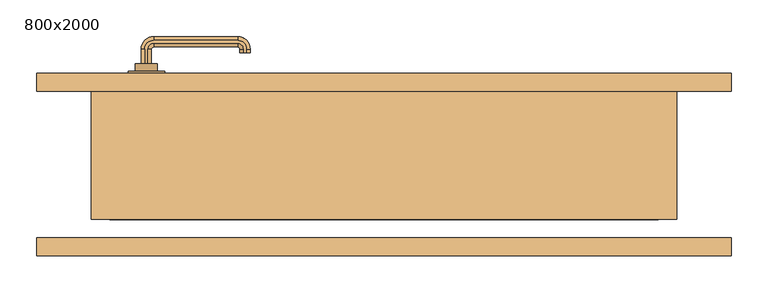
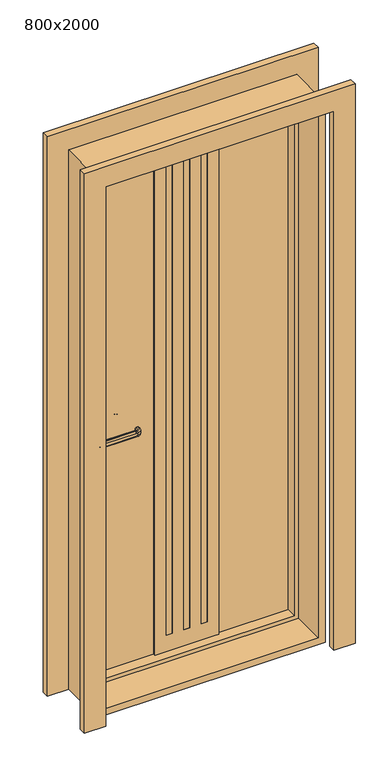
"""IFC4 building model written with IfcOpenShell, lengths in millimetres: door geometry, 片開き3 : 800x2000."""

from ifc_helpers import new_model, si_unit, point, frame, frame_2d, origin, place, context, project, spatial, polyline, circle_curve, ellipse_curve, trimmed, segment, composite_curve, outline, extrude, faceted_brep, source, transform, mapped, element, save
from ifc_brep_helpers import plane_surface, cylinder_surface, revolved_surface, advanced_brep


def door_800x2000_a7d1584b(model_context):
    return source(origin(), model_context, "Body", "SolidModel", [
        extrude(outline(composite_curve([segment(trimmed(circle_curve(frame_2d((980.1793562, -325.0)), 15.0), [point((980.1793562, -310.0))], [point((980.1793562, -340.0))], False, "CARTESIAN"), True, "CONTINUOUS"), segment(trimmed(circle_curve(frame_2d((980.1793562, -325.0)), 15.0), [point((980.1793562, -340.0))], [point((980.1793562, -310.0))], False, "CARTESIAN"), True, "CONTINUOUS")], self_intersect=False)), frame((0.0, 128.0, 0.0), z_axis=(0.0, 1.0, 0.0), x_axis=(0.0, 0.0, 1.0)), (0.0, 0.0, 1.0), 10.0),
        extrude(outline(composite_curve([segment(trimmed(circle_curve(frame_2d((980.1793562, -325.0)), 15.0), [point((980.1793562, -340.0))], [point((980.1793562, -310.0))], False, "CARTESIAN"), True, "CONTINUOUS"), segment(trimmed(circle_curve(frame_2d((980.1793562, -325.0)), 15.0), [point((980.1793562, -310.0))], [point((980.1793562, -340.0))], False, "CARTESIAN"), True, "CONTINUOUS")], self_intersect=False)), frame((0.0, 63.0, 0.0), z_axis=(0.0, 1.0, 0.0), x_axis=(0.0, 0.0, 1.0)), (0.0, 0.0, 1.0), 10.0),
        advanced_brep(
        [(-327.0, 128.0, 930.0), (-332.0, 128.0, 925.0), (-332.0, 128.0, 915.0477623), (-327.0, 128.0, 910.0477623), (-323.0, 128.0, 910.0477623), (-318.0, 128.0, 915.0477623), (-318.0, 128.0, 925.0), (-323.0, 128.0, 930.0), (-327.0, 158.0, 930.0), (-332.0, 158.0, 925.0), (-332.0, 158.0, 915.0477623), (-327.0, 158.0, 910.0477623), (-315.0, 170.0, 910.0477623), (-200.0, 170.0, 910.0477623), (-188.0, 158.0, 910.0477623), (-188.0, 153.0, 910.0477623), (-192.0, 153.0, 910.0477623), (-192.0, 158.0, 910.0477623), (-200.0, 166.0, 910.0477623), (-315.0, 166.0, 910.0477623), (-323.0, 158.0, 910.0477623), (-318.0, 158.0, 915.0477623), (-318.0, 158.0, 925.0), (-323.0, 158.0, 930.0), (-315.0, 166.0, 930.0), (-200.0, 166.0, 930.0), (-192.0, 158.0, 930.0), (-192.0, 153.0, 930.0), (-188.0, 153.0, 930.0), (-188.0, 158.0, 930.0), (-200.0, 170.0, 930.0), (-315.0, 170.0, 930.0), (-315.0, 175.0, 925.0), (-315.0, 175.0, 915.0477623), (-315.0, 161.0, 915.0477623), (-315.0, 161.0, 925.0), (-200.0, 175.0, 925.0), (-200.0, 175.0, 915.0477623), (-200.0, 161.0, 915.0477623), (-200.0, 161.0, 925.0), (-183.0, 158.0, 925.0), (-183.0, 158.0, 915.0477623), (-197.0, 158.0, 915.0477623), (-197.0, 158.0, 925.0), (-197.0, 153.0, 925.0), (-197.0, 153.0, 915.0477623), (-183.0, 153.0, 915.0477623), (-183.0, 153.0, 925.0)],
        [
            (0, 1, circle_curve(frame((-327.0, 128.0, 925.0), z_axis=(0.0, -1.0, 0.0), x_axis=(-1.0, 0.0, 0.0)), 5.0)),
            (1, 2),
            (2, 3, circle_curve(frame((-327.0, 128.0, 915.0477623), z_axis=(0.0, -1.0, 0.0), x_axis=(-1.0, 0.0, 0.0)), 5.0)),
            (3, 4),
            (4, 5, circle_curve(frame((-323.0, 128.0, 915.0477623), z_axis=(0.0, -1.0, 0.0), x_axis=(-1.0, 0.0, 0.0)), 5.0)),
            (5, 6),
            (6, 7, circle_curve(frame((-323.0, 128.0, 925.0), z_axis=(0.0, -1.0, 0.0), x_axis=(-1.0, 0.0, 0.0)), 5.0)),
            (7, 0),
            (0, 8),
            (8, 9, circle_curve(frame((-327.0, 158.0, 925.0), z_axis=(0.0, -1.0, 0.0), x_axis=(-1.0, 0.0, 0.0)), 5.0)),
            (9, 1),
            (9, 10),
            (10, 2),
            (10, 11, circle_curve(frame((-327.0, 158.0, 915.0477623), z_axis=(0.0, -1.0, 0.0), x_axis=(-1.0, 0.0, 0.0)), 5.0)),
            (11, 3),
            (11, 12, circle_curve(frame((-315.0, 158.0, 910.0477623), z_axis=(0.0, 0.0, -1.0), x_axis=(-1.0, 0.0, 0.0)), 12.0)),
            (12, 13),
            (13, 14, circle_curve(frame((-200.0, 158.0, 910.0477623), z_axis=(0.0, 0.0, -1.0), x_axis=(0.0, 1.0, 0.0)), 12.0)),
            (14, 15),
            (15, 16),
            (16, 17),
            (17, 18, circle_curve(frame((-200.0, 158.0, 910.0477623), z_axis=(0.0, 0.0, 1.0), x_axis=(0.0, 1.0, 0.0)), 8.0)),
            (18, 19),
            (19, 20, circle_curve(frame((-315.0, 158.0, 910.0477623), z_axis=(0.0, 0.0, 1.0), x_axis=(-1.0, 0.0, 0.0)), 8.0)),
            (20, 4),
            (20, 21, circle_curve(frame((-323.0, 158.0, 915.0477623), z_axis=(0.0, -1.0, 0.0), x_axis=(-1.0, 0.0, 0.0)), 5.0)),
            (21, 5),
            (21, 22),
            (22, 6),
            (22, 23, circle_curve(frame((-323.0, 158.0, 925.0), z_axis=(0.0, -1.0, 0.0), x_axis=(-1.0, 0.0, 0.0)), 5.0)),
            (23, 7),
            (23, 24, circle_curve(frame((-315.0, 158.0, 930.0), z_axis=(0.0, 0.0, -1.0), x_axis=(-1.0, 0.0, 0.0)), 8.0)),
            (24, 25),
            (25, 26, circle_curve(frame((-200.0, 158.0, 930.0), z_axis=(0.0, 0.0, -1.0), x_axis=(0.0, 1.0, 0.0)), 8.0)),
            (26, 27),
            (27, 28),
            (28, 29),
            (29, 30, circle_curve(frame((-200.0, 158.0, 930.0), z_axis=(0.0, 0.0, 1.0), x_axis=(0.0, 1.0, 0.0)), 12.0)),
            (30, 31),
            (31, 8, circle_curve(frame((-315.0, 158.0, 930.0), z_axis=(0.0, 0.0, 1.0), x_axis=(-1.0, 0.0, 0.0)), 12.0)),
            (32, 9, circle_curve(frame((-315.0, 158.0, 925.0), z_axis=(0.0, 0.0, 1.0), x_axis=(-1.0, 0.0, 0.0)), 17.0)),
            (31, 32, circle_curve(frame((-315.0, 170.0, 925.0), z_axis=(-1.0, 0.0, 0.0), x_axis=(0.0, 1.0, 0.0)), 5.0)),
            (33, 10, circle_curve(frame((-315.0, 158.0, 915.0477623), z_axis=(0.0, 0.0, 1.0), x_axis=(-1.0, 0.0, 0.0)), 17.0)),
            (32, 33),
            (33, 12, circle_curve(frame((-315.0, 170.0, 915.0477623), z_axis=(-1.0, 0.0, 0.0), x_axis=(0.0, 1.0, 0.0)), 5.0)),
            (34, 21, circle_curve(frame((-315.0, 158.0, 915.0477623), z_axis=(0.0, 0.0, 1.0), x_axis=(-1.0, 0.0, 0.0)), 3.0)),
            (19, 34, circle_curve(frame((-315.0, 166.0, 915.0477623), z_axis=(-1.0, 0.0, 0.0), x_axis=(0.0, 1.0, 0.0)), 5.0)),
            (35, 22, circle_curve(frame((-315.0, 158.0, 925.0), z_axis=(0.0, 0.0, 1.0), x_axis=(-1.0, 0.0, 0.0)), 3.0)),
            (34, 35),
            (35, 24, circle_curve(frame((-315.0, 166.0, 925.0), z_axis=(-1.0, 0.0, 0.0), x_axis=(0.0, 1.0, 0.0)), 5.0)),
            (30, 36, circle_curve(frame((-200.0, 170.0, 925.0), z_axis=(-1.0, 0.0, 0.0), x_axis=(0.0, 1.0, 0.0)), 5.0)),
            (36, 32),
            (36, 37),
            (37, 33),
            (37, 13, circle_curve(frame((-200.0, 170.0, 915.0477623), z_axis=(-1.0, 0.0, 0.0), x_axis=(0.0, 1.0, 0.0)), 5.0)),
            (18, 38, circle_curve(frame((-200.0, 166.0, 915.0477623), z_axis=(-1.0, 0.0, 0.0), x_axis=(0.0, 1.0, 0.0)), 5.0)),
            (38, 34),
            (38, 39),
            (39, 35),
            (39, 25, circle_curve(frame((-200.0, 166.0, 925.0), z_axis=(-1.0, 0.0, 0.0), x_axis=(0.0, 1.0, 0.0)), 5.0)),
            (40, 36, circle_curve(frame((-200.0, 158.0, 925.0), z_axis=(0.0, 0.0, 1.0), x_axis=(0.0, 1.0, 0.0)), 17.0)),
            (29, 40, circle_curve(frame((-188.0, 158.0, 925.0), z_axis=(0.0, 1.0, 0.0), x_axis=(1.0, 0.0, 0.0)), 5.0)),
            (41, 37, circle_curve(frame((-200.0, 158.0, 915.0477623), z_axis=(0.0, 0.0, 1.0), x_axis=(0.0, 1.0, 0.0)), 17.0)),
            (40, 41),
            (41, 14, circle_curve(frame((-188.0, 158.0, 915.0477623), z_axis=(0.0, 1.0, 0.0), x_axis=(1.0, 0.0, 0.0)), 5.0)),
            (42, 38, circle_curve(frame((-200.0, 158.0, 915.0477623), z_axis=(0.0, 0.0, 1.0), x_axis=(0.0, 1.0, 0.0)), 3.0)),
            (17, 42, circle_curve(frame((-192.0, 158.0, 915.0477623), z_axis=(0.0, 1.0, 0.0), x_axis=(1.0, 0.0, 0.0)), 5.0)),
            (43, 39, circle_curve(frame((-200.0, 158.0, 925.0), z_axis=(0.0, 0.0, 1.0), x_axis=(0.0, 1.0, 0.0)), 3.0)),
            (42, 43),
            (43, 26, circle_curve(frame((-192.0, 158.0, 925.0), z_axis=(0.0, 1.0, 0.0), x_axis=(1.0, 0.0, 0.0)), 5.0)),
            (27, 44, circle_curve(frame((-192.0, 153.0, 925.0), z_axis=(0.0, -1.0, 0.0), x_axis=(1.0, 0.0, 0.0)), 5.0)),
            (44, 45),
            (45, 16, circle_curve(frame((-192.0, 153.0, 915.0477623), z_axis=(0.0, -1.0, 0.0), x_axis=(1.0, 0.0, 0.0)), 5.0)),
            (15, 46, circle_curve(frame((-188.0, 153.0, 915.0477623), z_axis=(0.0, -1.0, 0.0), x_axis=(1.0, 0.0, 0.0)), 5.0)),
            (46, 47),
            (47, 28, circle_curve(frame((-188.0, 153.0, 925.0), z_axis=(0.0, -1.0, 0.0), x_axis=(1.0, 0.0, 0.0)), 5.0)),
            (47, 40),
            (46, 41),
            (45, 42),
            (44, 43),
        ],
        [
            plane_surface(frame((-335.198039, 128.0, 920.0), z_axis=(0.0, -1.0, 0.0), x_axis=(0.0, 0.0, 1.0))),
            cylinder_surface(frame((-327.0, 128.0, 925.0), z_axis=(0.0, -1.0, 0.0), x_axis=(-1.0, 0.0, 0.0)), 5.0),
            plane_surface(frame((-332.0, 128.0, 925.0), z_axis=(-1.0, 0.0, 0.0), x_axis=(0.0, 1.0, 0.0))),
            cylinder_surface(frame((-327.0, 128.0, 915.0477623), z_axis=(0.0, -1.0, 0.0), x_axis=(-1.0, 0.0, 0.0)), 5.0),
            plane_surface(frame((-327.0, 128.0, 910.0477623), z_axis=(0.0, 0.0, -1.0), x_axis=(0.0, 1.0, 0.0))),
            cylinder_surface(frame((-323.0, 128.0, 915.0477623), z_axis=(0.0, -1.0, 0.0), x_axis=(-1.0, 0.0, 0.0)), 5.0),
            plane_surface(frame((-318.0, 128.0, 915.0477623), z_axis=(1.0, 0.0, 0.0), x_axis=(0.0, 1.0, 0.0))),
            cylinder_surface(frame((-323.0, 128.0, 925.0), z_axis=(0.0, -1.0, 0.0), x_axis=(-1.0, 0.0, 0.0)), 5.0),
            plane_surface(frame((-323.0, 128.0, 930.0), z_axis=(0.0, 0.0, 1.0), x_axis=(0.0, 1.0, 0.0))),
            revolved_surface(trimmed(ellipse_curve(frame((-327.0, 158.0, 925.0), z_axis=(0.0, -1.0, 0.0), x_axis=(-1.0, 0.0, 0.0)), 5.0, 5.0), [point((-327.0, 158.0, 930.0))], [point((-332.0, 158.0, 925.0))], True, "CARTESIAN"), (-315.0, 158.0, 920.0), (0.0, 0.0, -1.0)),
            cylinder_surface(frame((-315.0, 158.0, 920.0), z_axis=(0.0, 0.0, -1.0), x_axis=(-1.0, 0.0, 0.0)), 17.0),
            revolved_surface(trimmed(ellipse_curve(frame((-327.0, 158.0, 915.0477623), z_axis=(0.0, -1.0, 0.0), x_axis=(-1.0, 0.0, 0.0)), 5.0, 5.0), [point((-332.0, 158.0, 915.0477623))], [point((-327.0, 158.0, 910.0477623))], True, "CARTESIAN"), (-315.0, 158.0, 920.0), (0.0, 0.0, -1.0)),
            revolved_surface(trimmed(ellipse_curve(frame((-323.0, 158.0, 915.0477623), z_axis=(0.0, -1.0, 0.0), x_axis=(-1.0, 0.0, 0.0)), 5.0, 5.0), [point((-323.0, 158.0, 910.0477623))], [point((-318.0, 158.0, 915.0477623))], True, "CARTESIAN"), (-315.0, 158.0, 920.0), (0.0, 0.0, -1.0)),
            revolved_surface(polyline([(-318.0, 158.0, 915.0477623), (-318.0, 158.0, 925.0)]), (-315.0, 158.0, 920.0), (0.0, 0.0, -1.0)),
            revolved_surface(trimmed(ellipse_curve(frame((-323.0, 158.0, 925.0), z_axis=(0.0, -1.0, 0.0), x_axis=(-1.0, 0.0, 0.0)), 5.0, 5.0), [point((-318.0, 158.0, 925.0))], [point((-323.0, 158.0, 930.0))], True, "CARTESIAN"), (-315.0, 158.0, 920.0), (0.0, 0.0, -1.0)),
            cylinder_surface(frame((-315.0, 170.0, 925.0), z_axis=(-1.0, 0.0, 0.0), x_axis=(0.0, 1.0, 0.0)), 5.0),
            plane_surface(frame((-315.0, 175.0, 925.0), z_axis=(0.0, 1.0, 0.0), x_axis=(1.0, 0.0, 0.0))),
            cylinder_surface(frame((-315.0, 170.0, 915.0477623), z_axis=(-1.0, 0.0, 0.0), x_axis=(0.0, 1.0, 0.0)), 5.0),
            cylinder_surface(frame((-315.0, 166.0, 915.0477623), z_axis=(-1.0, 0.0, 0.0), x_axis=(0.0, 1.0, 0.0)), 5.0),
            plane_surface(frame((-315.0, 161.0, 915.0477623), z_axis=(0.0, -1.0, 0.0), x_axis=(1.0, 0.0, 0.0))),
            cylinder_surface(frame((-315.0, 166.0, 925.0), z_axis=(-1.0, 0.0, 0.0), x_axis=(0.0, 1.0, 0.0)), 5.0),
            revolved_surface(trimmed(ellipse_curve(frame((-200.0, 170.0, 925.0), z_axis=(-1.0, 0.0, 0.0), x_axis=(0.0, 1.0, 0.0)), 5.0, 5.0), [point((-200.0, 170.0, 930.0))], [point((-200.0, 175.0, 925.0))], True, "CARTESIAN"), (-200.0, 158.0, 920.0), (0.0, 0.0, -1.0)),
            cylinder_surface(frame((-200.0, 158.0, 920.0), z_axis=(0.0, 0.0, -1.0), x_axis=(0.0, 1.0, 0.0)), 17.0),
            revolved_surface(trimmed(ellipse_curve(frame((-200.0, 170.0, 915.0477623), z_axis=(-1.0, 0.0, 0.0), x_axis=(0.0, 1.0, 0.0)), 5.0, 5.0), [point((-200.0, 175.0, 915.0477623))], [point((-200.0, 170.0, 910.0477623))], True, "CARTESIAN"), (-200.0, 158.0, 920.0), (0.0, 0.0, -1.0)),
            revolved_surface(trimmed(ellipse_curve(frame((-200.0, 166.0, 915.0477623), z_axis=(-1.0, 0.0, 0.0), x_axis=(0.0, 1.0, 0.0)), 5.0, 5.0), [point((-200.0, 166.0, 910.0477623))], [point((-200.0, 161.0, 915.0477623))], True, "CARTESIAN"), (-200.0, 158.0, 920.0), (0.0, 0.0, -1.0)),
            revolved_surface(polyline([(-200.0, 161.0, 915.0477623), (-200.0, 161.0, 925.0)]), (-200.0, 158.0, 920.0), (0.0, 0.0, -1.0)),
            revolved_surface(trimmed(ellipse_curve(frame((-200.0, 166.0, 925.0), z_axis=(-1.0, 0.0, 0.0), x_axis=(0.0, 1.0, 0.0)), 5.0, 5.0), [point((-200.0, 161.0, 925.0))], [point((-200.0, 166.0, 930.0))], True, "CARTESIAN"), (-200.0, 158.0, 920.0), (0.0, 0.0, -1.0)),
            plane_surface(frame((-200.198039, 153.0, 920.0), z_axis=(0.0, -1.0, 0.0), x_axis=(0.0, 0.0, -1.0))),
            cylinder_surface(frame((-188.0, 158.0, 925.0), z_axis=(0.0, 1.0, 0.0), x_axis=(1.0, 0.0, 0.0)), 5.0),
            plane_surface(frame((-183.0, 158.0, 925.0), z_axis=(1.0, 0.0, 0.0), x_axis=(0.0, -1.0, 0.0))),
            cylinder_surface(frame((-188.0, 158.0, 915.0477623), z_axis=(0.0, 1.0, 0.0), x_axis=(1.0, 0.0, 0.0)), 5.0),
            cylinder_surface(frame((-192.0, 158.0, 915.0477623), z_axis=(0.0, 1.0, 0.0), x_axis=(1.0, 0.0, 0.0)), 5.0),
            plane_surface(frame((-197.0, 158.0, 915.0477623), z_axis=(-1.0, 0.0, 0.0), x_axis=(0.0, -1.0, 0.0))),
            cylinder_surface(frame((-192.0, 158.0, 925.0), z_axis=(0.0, 1.0, 0.0), x_axis=(1.0, 0.0, 0.0)), 5.0),
        ],
        [
            (0, [[1, 2, 3, 4, 5, 6, 7, 8]]),
            (1, [[-1, 9, 10, 11]]),
            (2, [[-2, -11, 12, 13]]),
            (3, [[-3, -13, 14, 15]]),
            (4, [[-4, -15, 16, 17, 18, 19, 20, 21, 22, 23, 24, 25]]),
            (5, [[-5, -25, 26, 27]]),
            (6, [[-6, -27, 28, 29]]),
            (7, [[-7, -29, 30, 31]]),
            (8, [[-8, -31, 32, 33, 34, 35, 36, 37, 38, 39, 40, -9]]),
            (9, [[41, -10, -40, 42]]),
            (10, [[43, -12, -41, 44]]),
            (11, [[-16, -14, -43, 45]]),
            (12, [[46, -26, -24, 47]]),
            (13, [[48, -28, -46, 49]]),
            (14, [[-32, -30, -48, 50]]),
            (15, [[-42, -39, 51, 52]]),
            (16, [[-44, -52, 53, 54]]),
            (17, [[-45, -54, 55, -17]]),
            (18, [[-47, -23, 56, 57]]),
            (19, [[-49, -57, 58, 59]]),
            (20, [[-50, -59, 60, -33]]),
            (21, [[61, -51, -38, 62]]),
            (22, [[63, -53, -61, 64]]),
            (23, [[-18, -55, -63, 65]]),
            (24, [[66, -56, -22, 67]]),
            (25, [[68, -58, -66, 69]]),
            (26, [[-34, -60, -68, 70]]),
            (27, [[-36, 71, 72, 73, -20, 74, 75, 76]]),
            (28, [[-62, -37, -76, 77]]),
            (29, [[-64, -77, -75, 78]]),
            (30, [[-65, -78, -74, -19]]),
            (31, [[-67, -21, -73, 79]]),
            (32, [[-69, -79, -72, 80]]),
            (33, [[-70, -80, -71, -35]]),
        ],
    ),
        advanced_brep(
        [(-323.0, 73.0, 910.0), (-327.0, 73.0, 910.0), (-332.0, 73.0, 915.0), (-332.0, 73.0, 925.0), (-327.0, 73.0, 930.0), (-323.0, 73.0, 930.0), (-318.0, 73.0, 925.0), (-318.0, 73.0, 915.0), (-323.0, 43.0, 910.0), (-315.0, 35.0, 910.0), (-200.0, 35.0, 910.0), (-192.0, 43.0, 910.0), (-192.0, 48.0, 910.0), (-188.0, 48.0, 910.0), (-188.0, 43.0, 910.0), (-200.0, 31.0, 910.0), (-315.0, 31.0, 910.0), (-327.0, 43.0, 910.0), (-332.0, 43.0, 915.0), (-332.0, 43.0, 925.0), (-327.0, 43.0, 930.0), (-315.0, 31.0, 930.0), (-200.0, 31.0, 930.0), (-188.0, 43.0, 930.0), (-188.0, 48.0, 930.0), (-192.0, 48.0, 930.0), (-192.0, 43.0, 930.0), (-200.0, 35.0, 930.0), (-315.0, 35.0, 930.0), (-323.0, 43.0, 930.0), (-318.0, 43.0, 925.0), (-318.0, 43.0, 915.0), (-315.0, 26.0, 915.0), (-315.0, 26.0, 925.0), (-315.0, 40.0, 925.0), (-315.0, 40.0, 915.0), (-200.0, 26.0, 915.0), (-200.0, 26.0, 925.0), (-200.0, 40.0, 925.0), (-200.0, 40.0, 915.0), (-183.0, 43.0, 915.0), (-183.0, 43.0, 925.0), (-197.0, 43.0, 925.0), (-197.0, 43.0, 915.0), (-197.0, 48.0, 915.0), (-197.0, 48.0, 925.0), (-183.0, 48.0, 925.0), (-183.0, 48.0, 915.0)],
        [
            (0, 1),
            (1, 2, circle_curve(frame((-327.0, 73.0, 915.0), z_axis=(0.0, 1.0, 0.0), x_axis=(1.0, 0.0, 0.0)), 5.0)),
            (2, 3),
            (3, 4, circle_curve(frame((-327.0, 73.0, 925.0), z_axis=(0.0, 1.0, 0.0), x_axis=(1.0, 0.0, 0.0)), 5.0)),
            (4, 5),
            (5, 6, circle_curve(frame((-323.0, 73.0, 925.0), z_axis=(0.0, 1.0, 0.0), x_axis=(1.0, 0.0, 0.0)), 5.0)),
            (6, 7),
            (7, 0, circle_curve(frame((-323.0, 73.0, 915.0), z_axis=(0.0, 1.0, 0.0), x_axis=(1.0, 0.0, 0.0)), 5.0)),
            (0, 8),
            (8, 9, circle_curve(frame((-315.0, 43.0, 910.0), z_axis=(0.0, 0.0, 1.0), x_axis=(-1.0, 0.0, 0.0)), 8.0)),
            (9, 10),
            (10, 11, circle_curve(frame((-200.0, 43.0, 910.0), z_axis=(0.0, 0.0, 1.0), x_axis=(0.0, -1.0, 0.0)), 8.0)),
            (11, 12),
            (12, 13),
            (13, 14),
            (14, 15, circle_curve(frame((-200.0, 43.0, 910.0), z_axis=(0.0, 0.0, -1.0), x_axis=(0.0, -1.0, 0.0)), 12.0)),
            (15, 16),
            (16, 17, circle_curve(frame((-315.0, 43.0, 910.0), z_axis=(0.0, 0.0, -1.0), x_axis=(-1.0, 0.0, 0.0)), 12.0)),
            (17, 1),
            (17, 18, circle_curve(frame((-327.0, 43.0, 915.0), z_axis=(0.0, 1.0, 0.0), x_axis=(1.0, 0.0, 0.0)), 5.0)),
            (18, 2),
            (18, 19),
            (19, 3),
            (19, 20, circle_curve(frame((-327.0, 43.0, 925.0), z_axis=(0.0, 1.0, 0.0), x_axis=(1.0, 0.0, 0.0)), 5.0)),
            (20, 4),
            (20, 21, circle_curve(frame((-315.0, 43.0, 930.0), z_axis=(0.0, 0.0, 1.0), x_axis=(-1.0, 0.0, 0.0)), 12.0)),
            (21, 22),
            (22, 23, circle_curve(frame((-200.0, 43.0, 930.0), z_axis=(0.0, 0.0, 1.0), x_axis=(0.0, -1.0, 0.0)), 12.0)),
            (23, 24),
            (24, 25),
            (25, 26),
            (26, 27, circle_curve(frame((-200.0, 43.0, 930.0), z_axis=(0.0, 0.0, -1.0), x_axis=(0.0, -1.0, 0.0)), 8.0)),
            (27, 28),
            (28, 29, circle_curve(frame((-315.0, 43.0, 930.0), z_axis=(0.0, 0.0, -1.0), x_axis=(-1.0, 0.0, 0.0)), 8.0)),
            (29, 5),
            (29, 30, circle_curve(frame((-323.0, 43.0, 925.0), z_axis=(0.0, 1.0, 0.0), x_axis=(1.0, 0.0, 0.0)), 5.0)),
            (30, 6),
            (30, 31),
            (31, 7),
            (31, 8, circle_curve(frame((-323.0, 43.0, 915.0), z_axis=(0.0, 1.0, 0.0), x_axis=(1.0, 0.0, 0.0)), 5.0)),
            (32, 18, circle_curve(frame((-315.0, 43.0, 915.0), z_axis=(0.0, 0.0, -1.0), x_axis=(-1.0, 0.0, 0.0)), 17.0)),
            (16, 32, circle_curve(frame((-315.0, 31.0, 915.0), z_axis=(-1.0, 0.0, 0.0), x_axis=(0.0, 1.0, 0.0)), 5.0)),
            (33, 19, circle_curve(frame((-315.0, 43.0, 925.0), z_axis=(0.0, 0.0, -1.0), x_axis=(-1.0, 0.0, 0.0)), 17.0)),
            (32, 33),
            (33, 21, circle_curve(frame((-315.0, 31.0, 925.0), z_axis=(-1.0, 0.0, 0.0), x_axis=(0.0, 1.0, 0.0)), 5.0)),
            (34, 30, circle_curve(frame((-315.0, 43.0, 925.0), z_axis=(0.0, 0.0, -1.0), x_axis=(-1.0, 0.0, 0.0)), 3.0)),
            (28, 34, circle_curve(frame((-315.0, 35.0, 925.0), z_axis=(-1.0, 0.0, 0.0), x_axis=(0.0, 1.0, 0.0)), 5.0)),
            (35, 31, circle_curve(frame((-315.0, 43.0, 915.0), z_axis=(0.0, 0.0, -1.0), x_axis=(-1.0, 0.0, 0.0)), 3.0)),
            (34, 35),
            (35, 9, circle_curve(frame((-315.0, 35.0, 915.0), z_axis=(-1.0, 0.0, 0.0), x_axis=(0.0, 1.0, 0.0)), 5.0)),
            (15, 36, circle_curve(frame((-200.0, 31.0, 915.0), z_axis=(-1.0, 0.0, 0.0), x_axis=(0.0, 1.0, 0.0)), 5.0)),
            (36, 32),
            (36, 37),
            (37, 33),
            (37, 22, circle_curve(frame((-200.0, 31.0, 925.0), z_axis=(-1.0, 0.0, 0.0), x_axis=(0.0, 1.0, 0.0)), 5.0)),
            (27, 38, circle_curve(frame((-200.0, 35.0, 925.0), z_axis=(-1.0, 0.0, 0.0), x_axis=(0.0, 1.0, 0.0)), 5.0)),
            (38, 34),
            (38, 39),
            (39, 35),
            (39, 10, circle_curve(frame((-200.0, 35.0, 915.0), z_axis=(-1.0, 0.0, 0.0), x_axis=(0.0, 1.0, 0.0)), 5.0)),
            (40, 36, circle_curve(frame((-200.0, 43.0, 915.0), z_axis=(0.0, 0.0, -1.0), x_axis=(0.0, -1.0, 0.0)), 17.0)),
            (14, 40, circle_curve(frame((-188.0, 43.0, 915.0), z_axis=(0.0, -1.0, 0.0), x_axis=(-1.0, 0.0, 0.0)), 5.0)),
            (41, 37, circle_curve(frame((-200.0, 43.0, 925.0), z_axis=(0.0, 0.0, -1.0), x_axis=(0.0, -1.0, 0.0)), 17.0)),
            (40, 41),
            (41, 23, circle_curve(frame((-188.0, 43.0, 925.0), z_axis=(0.0, -1.0, 0.0), x_axis=(-1.0, 0.0, 0.0)), 5.0)),
            (42, 38, circle_curve(frame((-200.0, 43.0, 925.0), z_axis=(0.0, 0.0, -1.0), x_axis=(0.0, -1.0, 0.0)), 3.0)),
            (26, 42, circle_curve(frame((-192.0, 43.0, 925.0), z_axis=(0.0, -1.0, 0.0), x_axis=(-1.0, 0.0, 0.0)), 5.0)),
            (43, 39, circle_curve(frame((-200.0, 43.0, 915.0), z_axis=(0.0, 0.0, -1.0), x_axis=(0.0, -1.0, 0.0)), 3.0)),
            (42, 43),
            (43, 11, circle_curve(frame((-192.0, 43.0, 915.0), z_axis=(0.0, -1.0, 0.0), x_axis=(-1.0, 0.0, 0.0)), 5.0)),
            (12, 44, circle_curve(frame((-192.0, 48.0, 915.0), z_axis=(0.0, 1.0, 0.0), x_axis=(-1.0, 0.0, 0.0)), 5.0)),
            (44, 45),
            (45, 25, circle_curve(frame((-192.0, 48.0, 925.0), z_axis=(0.0, 1.0, 0.0), x_axis=(-1.0, 0.0, 0.0)), 5.0)),
            (24, 46, circle_curve(frame((-188.0, 48.0, 925.0), z_axis=(0.0, 1.0, 0.0), x_axis=(-1.0, 0.0, 0.0)), 5.0)),
            (46, 47),
            (47, 13, circle_curve(frame((-188.0, 48.0, 915.0), z_axis=(0.0, 1.0, 0.0), x_axis=(-1.0, 0.0, 0.0)), 5.0)),
            (47, 40),
            (46, 41),
            (45, 42),
            (44, 43),
        ],
        [
            plane_surface(frame((-335.198039, 73.0, 920.0), z_axis=(0.0, 1.0, 0.0), x_axis=(0.0, 0.0, -1.0))),
            plane_surface(frame((-323.0, 73.0, 910.0), z_axis=(0.0, 0.0, -1.0), x_axis=(0.0, -1.0, 0.0))),
            cylinder_surface(frame((-327.0, 73.0, 915.0), z_axis=(0.0, 1.0, 0.0), x_axis=(1.0, 0.0, 0.0)), 5.0),
            plane_surface(frame((-332.0, 73.0, 915.0), z_axis=(-1.0, 0.0, 0.0), x_axis=(0.0, -1.0, 0.0))),
            cylinder_surface(frame((-327.0, 73.0, 925.0), z_axis=(0.0, 1.0, 0.0), x_axis=(1.0, 0.0, 0.0)), 5.0),
            plane_surface(frame((-327.0, 73.0, 930.0), z_axis=(0.0, 0.0, 1.0), x_axis=(0.0, -1.0, 0.0))),
            cylinder_surface(frame((-323.0, 73.0, 925.0), z_axis=(0.0, 1.0, 0.0), x_axis=(1.0, 0.0, 0.0)), 5.0),
            plane_surface(frame((-318.0, 73.0, 925.0), z_axis=(1.0, 0.0, 0.0), x_axis=(0.0, -1.0, 0.0))),
            cylinder_surface(frame((-323.0, 73.0, 915.0), z_axis=(0.0, 1.0, 0.0), x_axis=(1.0, 0.0, 0.0)), 5.0),
            revolved_surface(trimmed(ellipse_curve(frame((-327.0, 43.0, 915.0), z_axis=(0.0, 1.0, 0.0), x_axis=(1.0, 0.0, 0.0)), 5.0, 5.0), [point((-327.0, 43.0, 910.0))], [point((-332.0, 43.0, 915.0))], True, "CARTESIAN"), (-315.0, 43.0, 920.0), (0.0, 0.0, 1.0)),
            cylinder_surface(frame((-315.0, 43.0, 920.0), z_axis=(0.0, 0.0, 1.0), x_axis=(-1.0, 0.0, 0.0)), 17.0),
            revolved_surface(trimmed(ellipse_curve(frame((-327.0, 43.0, 925.0), z_axis=(0.0, 1.0, 0.0), x_axis=(1.0, 0.0, 0.0)), 5.0, 5.0), [point((-332.0, 43.0, 925.0))], [point((-327.0, 43.0, 930.0))], True, "CARTESIAN"), (-315.0, 43.0, 920.0), (0.0, 0.0, 1.0)),
            revolved_surface(trimmed(ellipse_curve(frame((-323.0, 43.0, 925.0), z_axis=(0.0, 1.0, 0.0), x_axis=(1.0, 0.0, 0.0)), 5.0, 5.0), [point((-323.0, 43.0, 930.0))], [point((-318.0, 43.0, 925.0))], True, "CARTESIAN"), (-315.0, 43.0, 920.0), (0.0, 0.0, 1.0)),
            revolved_surface(polyline([(-318.0, 43.0, 925.0), (-318.0, 43.0, 915.0)]), (-315.0, 43.0, 920.0), (0.0, 0.0, 1.0)),
            revolved_surface(trimmed(ellipse_curve(frame((-323.0, 43.0, 915.0), z_axis=(0.0, 1.0, 0.0), x_axis=(1.0, 0.0, 0.0)), 5.0, 5.0), [point((-318.0, 43.0, 915.0))], [point((-323.0, 43.0, 910.0))], True, "CARTESIAN"), (-315.0, 43.0, 920.0), (0.0, 0.0, 1.0)),
            cylinder_surface(frame((-315.0, 31.0, 915.0), z_axis=(-1.0, 0.0, 0.0), x_axis=(0.0, 1.0, 0.0)), 5.0),
            plane_surface(frame((-315.0, 26.0, 915.0), z_axis=(0.0, -1.0, 0.0), x_axis=(1.0, 0.0, 0.0))),
            cylinder_surface(frame((-315.0, 31.0, 925.0), z_axis=(-1.0, 0.0, 0.0), x_axis=(0.0, 1.0, 0.0)), 5.0),
            cylinder_surface(frame((-315.0, 35.0, 925.0), z_axis=(-1.0, 0.0, 0.0), x_axis=(0.0, 1.0, 0.0)), 5.0),
            plane_surface(frame((-315.0, 40.0, 925.0), z_axis=(0.0, 1.0, 0.0), x_axis=(1.0, 0.0, 0.0))),
            cylinder_surface(frame((-315.0, 35.0, 915.0), z_axis=(-1.0, 0.0, 0.0), x_axis=(0.0, 1.0, 0.0)), 5.0),
            revolved_surface(trimmed(ellipse_curve(frame((-200.0, 31.0, 915.0), z_axis=(-1.0, 0.0, 0.0), x_axis=(0.0, 1.0, 0.0)), 5.0, 5.0), [point((-200.0, 31.0, 910.0))], [point((-200.0, 26.0, 915.0))], True, "CARTESIAN"), (-200.0, 43.0, 920.0), (0.0, 0.0, 1.0)),
            cylinder_surface(frame((-200.0, 43.0, 920.0), z_axis=(0.0, 0.0, 1.0), x_axis=(0.0, -1.0, 0.0)), 17.0),
            revolved_surface(trimmed(ellipse_curve(frame((-200.0, 31.0, 925.0), z_axis=(-1.0, 0.0, 0.0), x_axis=(0.0, 1.0, 0.0)), 5.0, 5.0), [point((-200.0, 26.0, 925.0))], [point((-200.0, 31.0, 930.0))], True, "CARTESIAN"), (-200.0, 43.0, 920.0), (0.0, 0.0, 1.0)),
            revolved_surface(trimmed(ellipse_curve(frame((-200.0, 35.0, 925.0), z_axis=(-1.0, 0.0, 0.0), x_axis=(0.0, 1.0, 0.0)), 5.0, 5.0), [point((-200.0, 35.0, 930.0))], [point((-200.0, 40.0, 925.0))], True, "CARTESIAN"), (-200.0, 43.0, 920.0), (0.0, 0.0, 1.0)),
            revolved_surface(polyline([(-200.0, 40.0, 925.0), (-200.0, 40.0, 915.0)]), (-200.0, 43.0, 920.0), (0.0, 0.0, 1.0)),
            revolved_surface(trimmed(ellipse_curve(frame((-200.0, 35.0, 915.0), z_axis=(-1.0, 0.0, 0.0), x_axis=(0.0, 1.0, 0.0)), 5.0, 5.0), [point((-200.0, 40.0, 915.0))], [point((-200.0, 35.0, 910.0))], True, "CARTESIAN"), (-200.0, 43.0, 920.0), (0.0, 0.0, 1.0)),
            plane_surface(frame((-200.198039, 48.0, 920.0), z_axis=(0.0, 1.0, 0.0), x_axis=(0.0, 0.0, 1.0))),
            cylinder_surface(frame((-188.0, 43.0, 915.0), z_axis=(0.0, -1.0, 0.0), x_axis=(-1.0, 0.0, 0.0)), 5.0),
            plane_surface(frame((-183.0, 43.0, 915.0), z_axis=(1.0, 0.0, 0.0), x_axis=(0.0, 1.0, 0.0))),
            cylinder_surface(frame((-188.0, 43.0, 925.0), z_axis=(0.0, -1.0, 0.0), x_axis=(-1.0, 0.0, 0.0)), 5.0),
            cylinder_surface(frame((-192.0, 43.0, 925.0), z_axis=(0.0, -1.0, 0.0), x_axis=(-1.0, 0.0, 0.0)), 5.0),
            plane_surface(frame((-197.0, 43.0, 925.0), z_axis=(-1.0, 0.0, 0.0), x_axis=(0.0, 1.0, 0.0))),
            cylinder_surface(frame((-192.0, 43.0, 915.0), z_axis=(0.0, -1.0, 0.0), x_axis=(-1.0, 0.0, 0.0)), 5.0),
        ],
        [
            (0, [[1, 2, 3, 4, 5, 6, 7, 8]]),
            (1, [[-1, 9, 10, 11, 12, 13, 14, 15, 16, 17, 18, 19]]),
            (2, [[-2, -19, 20, 21]]),
            (3, [[-3, -21, 22, 23]]),
            (4, [[-4, -23, 24, 25]]),
            (5, [[-5, -25, 26, 27, 28, 29, 30, 31, 32, 33, 34, 35]]),
            (6, [[-6, -35, 36, 37]]),
            (7, [[-7, -37, 38, 39]]),
            (8, [[-8, -39, 40, -9]]),
            (9, [[41, -20, -18, 42]]),
            (10, [[43, -22, -41, 44]]),
            (11, [[-26, -24, -43, 45]]),
            (12, [[46, -36, -34, 47]]),
            (13, [[48, -38, -46, 49]]),
            (14, [[-10, -40, -48, 50]]),
            (15, [[-42, -17, 51, 52]]),
            (16, [[-44, -52, 53, 54]]),
            (17, [[-45, -54, 55, -27]]),
            (18, [[-47, -33, 56, 57]]),
            (19, [[-49, -57, 58, 59]]),
            (20, [[-50, -59, 60, -11]]),
            (21, [[61, -51, -16, 62]]),
            (22, [[63, -53, -61, 64]]),
            (23, [[-28, -55, -63, 65]]),
            (24, [[66, -56, -32, 67]]),
            (25, [[68, -58, -66, 69]]),
            (26, [[-12, -60, -68, 70]]),
            (27, [[71, 72, 73, -30, 74, 75, 76, -14]]),
            (28, [[-62, -15, -76, 77]]),
            (29, [[-64, -77, -75, 78]]),
            (30, [[-65, -78, -74, -29]]),
            (31, [[-67, -31, -73, 79]]),
            (32, [[-69, -79, -72, 80]]),
            (33, [[-70, -80, -71, -13]]),
        ],
    ),
        extrude(outline(composite_curve([segment(polyline([(990.1793562, -350.0), (920.0, -350.0)]), True, "CONTINUOUS"), segment(trimmed(circle_curve(frame_2d((920.0, -325.0)), 25.0), [point((920.0, -350.0))], [point((920.0, -300.0))], False, "CARTESIAN"), True, "CONTINUOUS"), segment(polyline([(920.0, -300.0), (990.1793562, -300.0)]), True, "CONTINUOUS"), segment(trimmed(circle_curve(frame_2d((990.1793562, -325.0)), 25.0), [point((990.1793562, -300.0))], [point((990.1793562, -350.0))], False, "CARTESIAN"), True, "CONTINUOUS")], self_intersect=False)), frame((0.0, 118.0, 0.0), z_axis=(0.0, 1.0, 0.0), x_axis=(0.0, 0.0, 1.0)), (0.0, 0.0, 1.0), 10.0),
        extrude(outline(composite_curve([segment(trimmed(circle_curve(frame_2d((990.1793562, -325.0)), 25.0), [point((990.1793562, -300.0))], [point((990.1793562, -350.0))], False, "CARTESIAN"), True, "CONTINUOUS"), segment(polyline([(990.1793562, -350.0), (920.0, -350.0)]), True, "CONTINUOUS"), segment(trimmed(circle_curve(frame_2d((920.0, -325.0)), 25.0), [point((920.0, -350.0))], [point((920.0, -300.0))], False, "CARTESIAN"), True, "CONTINUOUS"), segment(polyline([(920.0, -300.0), (990.1793562, -300.0)]), True, "CONTINUOUS")], self_intersect=False)), frame((0.0, 73.0, 0.0), z_axis=(0.0, 1.0, 0.0), x_axis=(0.0, 0.0, 1.0)), (0.0, 0.0, 1.0), 10.0),
        extrude(outline(polyline([(-51.5, 75.0), (-71.5, 75.0), (-71.5, 92.0), (-51.5, 92.0), (-51.5, 75.0)])), frame((0.0, 0.0, 100.0), z_axis=(0.0, 0.0, 1.0), x_axis=(1.0, 0.0, 0.0)), (0.0, 0.0, 1.0), 1800.0),
        extrude(outline(polyline([(10.0, 75.0), (-10.0, 75.0), (-10.0, 92.0), (10.0, 92.0), (10.0, 75.0)])), frame((0.0, 0.0, 100.0), z_axis=(0.0, 0.0, 1.0), x_axis=(1.0, 0.0, 0.0)), (0.0, 0.0, 1.0), 1800.0),
        extrude(outline(polyline([(71.5, 75.0), (51.5, 75.0), (51.5, 92.0), (71.5, 92.0), (71.5, 75.0)])), frame((0.0, 0.0, 100.0), z_axis=(0.0, 0.0, 1.0), x_axis=(1.0, 0.0, 0.0)), (0.0, 0.0, 1.0), 1800.0),
        extrude(outline(polyline([(1975.0, -112.5), (25.0, -112.5), (25.0, 112.5), (1975.0, 112.5), (1975.0, -112.5)]), holes=[polyline([(1900.0, 51.5), (1900.0, 71.5), (100.0, 71.5), (100.0, 51.5), (1900.0, 51.5)]), polyline([(1900.0, -10.0), (1900.0, 10.0), (100.0, 10.0), (100.0, -10.0), (1900.0, -10.0)]), polyline([(1900.0, -71.5), (1900.0, -51.5), (100.0, -51.5), (100.0, -71.5), (1900.0, -71.5)])]), frame((0.0, 75.0, 0.0), z_axis=(0.0, 1.0, 0.0), x_axis=(0.0, 0.0, 1.0)), (0.0, 0.0, 1.0), 17.0),
        extrude(outline(polyline([(-112.5, 83.0), (-375.0, 83.0), (-375.0, 118.0), (-112.5, 118.0), (-112.5, 83.0)])), frame((0.0, 0.0, 25.0), z_axis=(0.0, 0.0, 1.0), x_axis=(1.0, 0.0, 0.0)), (0.0, 0.0, 1.0), 1950.0),
        extrude(outline(polyline([(112.5, 83.0), (112.5, 118.0), (375.0, 118.0), (375.0, 83.0), (112.5, 83.0)])), frame((0.0, 0.0, 25.0), z_axis=(0.0, 0.0, 1.0), x_axis=(1.0, 0.0, 0.0)), (0.0, 0.0, 1.0), 1950.0),
        faceted_brep([(400.0, 125.0, 2000.0), (400.0, -75.0, 2000.0), (400.0, -75.0, 0.0), (400.0, 125.0, 0.0), (375.0, 83.0, 1975.0), (375.0, 125.0, 1975.0), (375.0, 125.0, 25.0), (375.0, 83.0, 25.0), (360.0, 45.0, 1960.0), (360.0, 83.0, 1960.0), (360.0, 83.0, 40.0), (360.0, 45.0, 40.0), (375.0, -75.0, 1975.0), (375.0, 45.0, 1975.0), (375.0, 45.0, 25.0), (375.0, -75.0, 25.0), (-400.0, -75.0, 0.0), (-400.0, 125.0, 0.0), (-375.0, 125.0, 25.0), (-375.0, 83.0, 25.0), (-360.0, 83.0, 40.0), (-360.0, 45.0, 40.0), (-375.0, 45.0, 25.0), (-375.0, -75.0, 25.0), (-400.0, -75.0, 2000.0), (-400.0, 125.0, 2000.0), (-375.0, 125.0, 1975.0), (-375.0, 83.0, 1975.0), (-360.0, 83.0, 1960.0), (-360.0, 45.0, 1960.0), (-375.0, 45.0, 1975.0), (-375.0, -75.0, 1975.0)], [[[0, 1, 2, 3]], [[4, 5, 6, 7]], [[8, 9, 10, 11]], [[12, 13, 14, 15]], [[3, 2, 16, 17]], [[7, 6, 18, 19]], [[11, 10, 20, 21]], [[15, 14, 22, 23]], [[17, 16, 24, 25]], [[19, 18, 26, 27]], [[21, 20, 28, 29]], [[23, 22, 30, 31]], [[25, 24, 1, 0]], [[3, 17, 25, 0], [5, 26, 18, 6]], [[27, 26, 5, 4]], [[7, 19, 27, 4], [9, 28, 20, 10]], [[29, 28, 9, 8]], [[13, 30, 22, 14], [11, 21, 29, 8]], [[31, 30, 13, 12]], [[1, 24, 16, 2], [15, 23, 31, 12]]]),
        extrude(outline(polyline([(2000.0, -400.0), (2000.0, 400.0), (0.0, 400.0), (0.0, 475.0), (2075.0, 475.0), (2075.0, -475.0), (0.0, -475.0), (0.0, -400.0), (2000.0, -400.0)])), frame((0.0, 100.0, 0.0), z_axis=(0.0, 1.0, 0.0), x_axis=(0.0, 0.0, 1.0)), (0.0, 0.0, 1.0), 25.0),
        extrude(outline(polyline([(2075.0, -475.0), (0.0, -475.0), (0.0, -400.0), (2000.0, -400.0), (2000.0, 400.0), (0.0, 400.0), (0.0, 475.0), (2075.0, 475.0), (2075.0, -475.0)])), frame((0.0, -125.0, 0.0), z_axis=(0.0, 1.0, 0.0), x_axis=(0.0, 0.0, 1.0)), (0.0, 0.0, 1.0), 25.0),
    ])


if __name__ == "__main__":
    model = new_model("IFC4")
    model_context = context("Model", 3, world=origin())
    ifc_project = project(units=[si_unit("LENGTHUNIT", "METRE", prefix="MILLI")], contexts=[model_context])
    site = spatial("IfcSite", under=ifc_project)
    building = spatial("IfcBuilding", under=site)
    placement = place(None, origin())
    door_800x2000_shape = door_800x2000_a7d1584b(model_context)
    element("IfcDoor", 1, ObjectType="片開き3 : 800x2000", at=placement, inside=building, context=model_context, shape_type="MappedRepresentation", body=[
        mapped(door_800x2000_shape, transform((0.0, 0.0, 0.0), x_axis=(1.0, 0.0, 0.0), y_axis=(0.0, 1.0, 0.0), z_axis=(0.0, 0.0, 1.0))),
    ])
    save(model, "model.ifc")
